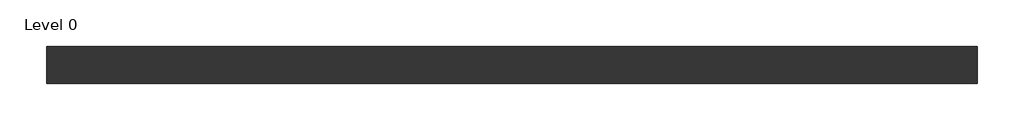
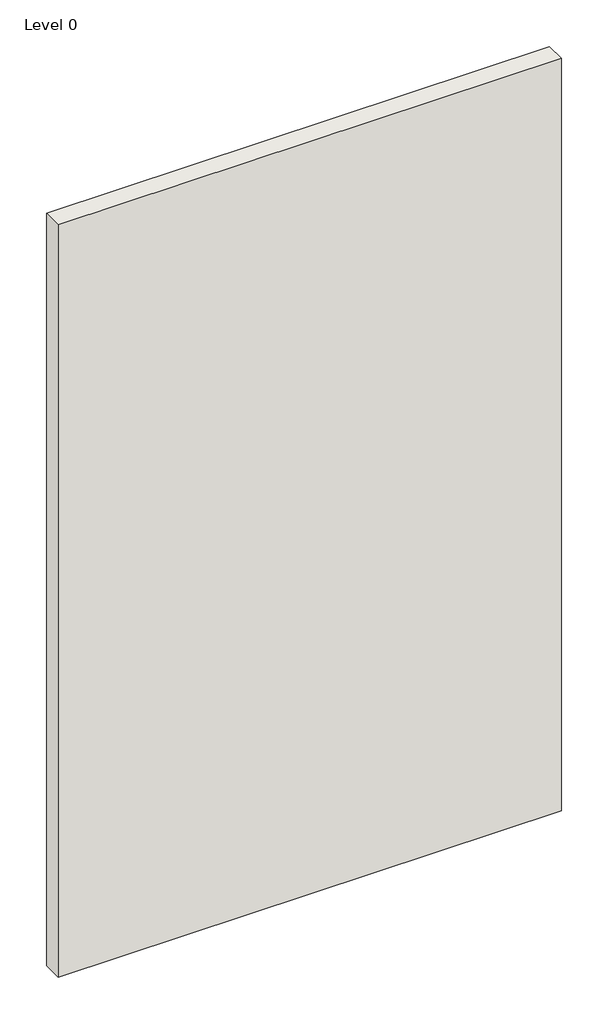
# One storey: 1 wall.
"""IFC4 building model written with IfcOpenShell, lengths in millimetres."""

from ifc_helpers import new_model, si_unit, origin, origin_with_axes, place, context, project, spatial, polyline, outline, extrude, element, save

model = new_model("IFC4")

# Units and contexts
model_context = context("Model", 3, world=origin())
ifc_project = project(units=[si_unit("LENGTHUNIT", "METRE", prefix="MILLI")], contexts=[model_context])

# Site, building, storey
site = spatial("IfcSite", under=ifc_project)
building = spatial("IfcBuilding", under=site)
storey = spatial("IfcBuildingStorey", under=building, Name="Level 0", Elevation=0.0)

# Wall
placement = place(None, origin())
element("IfcWall", 1, ObjectType="BTC16523AA - GypWall Robust", at=placement, inside=storey, context=model_context, shape_type="SweptSolid", body=[
    extrude(outline(polyline([(1155.997948, 493.2669953), (-1944.002052, 493.2669953), (-1944.002052, 617.2669953), (1155.997948, 617.2669953), (1155.997948, 493.2669953)])), origin_with_axes(), (0.0, 0.0, 1.0), 4900.0),
])

save(model, "model.ifc")
